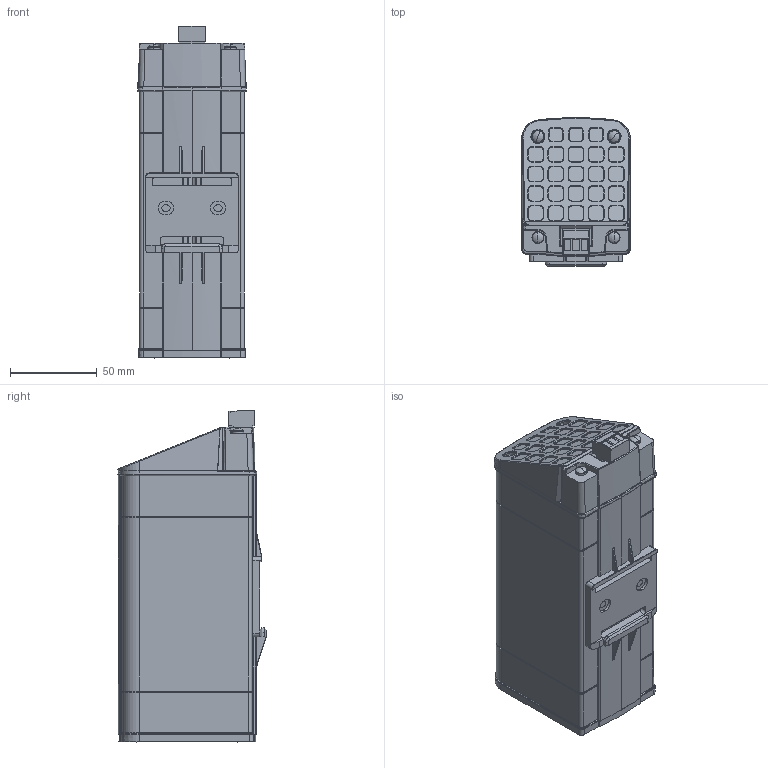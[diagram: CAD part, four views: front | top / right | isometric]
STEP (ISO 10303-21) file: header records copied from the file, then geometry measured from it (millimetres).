
FILE_DESCRIPTION (( 'STEP AP214' ), '1' );
FILE_NAME ('HTP100-1.STEP', '2026-01-28T11:14:34', ( '' ), ( '' ), 'SwSTEP 2.0', 'SolidWorks 2022', '' );
FILE_SCHEMA (( 'AUTOMOTIVE_DESIGN' ));
Length unit declared in the file: millimetre
Products named in the file (12): Vite ST3.5_semplificata; Profilo dissipatore deformato_Lung.150mm semplificato; Copertura PLASTICA_Lunghezza L 150mm semplificata; Placchetta frontale_Placchetta frontale L150+logo semplificata; Copertura PLASTICA_150 lato opposto semplificata; Vite ST3.5x38_semplificata; DT-04537DSI_Default semplificata; Placchetta posteriore_Placchetta posteriore L150 semplificata; 2EDGKF-5.0-03P-04_semplificata; Tappo Plastico di estremità_tappo semplificato coperture plastiche; DT-04539DSI_Semplificata; HTP100-1
Assembly tree (17 placements, depth 2):
  HTP100-1
    Profilo dissipatore deformato_Lung.150mm semplificato
    Tappo Plastico di estremità_tappo semplificato coperture plastiche
    Vite ST3.5_semplificata  x6
    Vite ST3.5x38_semplificata  x2
    DT-04539DSI_Semplificata
    DT-04537DSI_Default semplificata
    Copertura PLASTICA_Lunghezza L 150mm semplificata
    Copertura PLASTICA_150 lato opposto semplificata
    Placchetta frontale_Placchetta frontale L150+logo semplificata
    Placchetta posteriore_Placchetta posteriore L150 semplificata
    2EDGKF-5.0-03P-04_semplificata
Bounding box: 62.7 x 85.46 x 191.25 mm (x, y, z)
Volume: 789037.6 mm3; surface area: 151605.4 mm2
Topology: 18 solids, 20 shells, 1641 faces, 4247 edges, 2706 vertices
Faces by surface type: plane 701, cylinder 435, cone 256, bspline 188, torus 39, sphere 22
Entity records: 56766 total; most frequent: CARTESIAN_POINT 17755, ORIENTED_EDGE 8350, DIRECTION 7327, EDGE_CURVE 4175, VERTEX_POINT 2664, AXIS2_PLACEMENT_3D 2503, VECTOR 2321, LINE 2321
